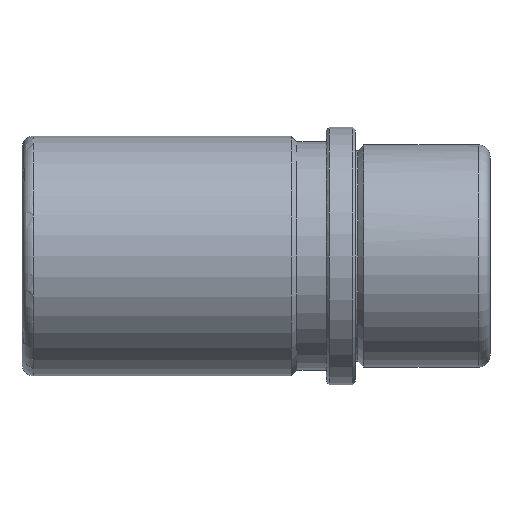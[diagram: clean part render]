
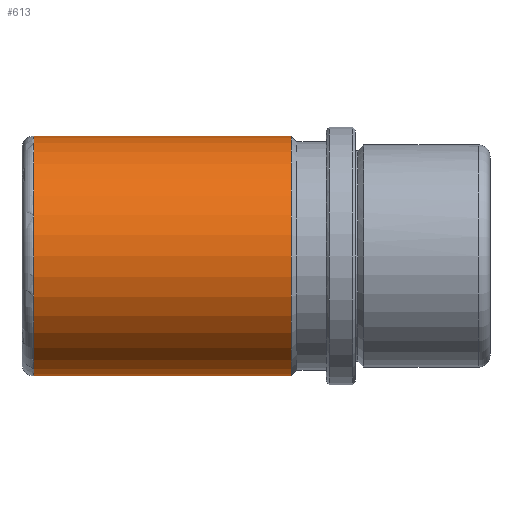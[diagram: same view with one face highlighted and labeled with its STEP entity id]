
A CAD part, front view. The second image highlights one B-rep face of the part: STEP entity #613.
In plain terms, the highlighted cylindrical face has radius 20.5 mm (diameter 41 mm), a partial arc.
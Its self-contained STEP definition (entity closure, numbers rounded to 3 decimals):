
#398=CARTESIAN_POINT('Line Origine',(23.,0.,20.5)) ;
#402=CARTESIAN_POINT('Vertex',(-11.,0.,20.5)) ;
#404=CARTESIAN_POINT('Vertex',(-55.,0.,20.5)) ;
#418=CARTESIAN_POINT('Vertex',(-11.,0.,-20.5)) ;
#421=CARTESIAN_POINT('Line Origine',(23.,0.,-20.5)) ;
#425=CARTESIAN_POINT('Vertex',(-55.,0.,-20.5)) ;
#576=CARTESIAN_POINT('Axis2P3D Location',(23.,0.,0.)) ;
#581=CARTESIAN_POINT('Axis2P3D Location',(-11.,0.,0.)) ;
#585=CARTESIAN_POINT('Vertex',(-11.,-20.5,0.)) ;
#588=CARTESIAN_POINT('Axis2P3D Location',(-11.,0.,0.)) ;
#593=CARTESIAN_POINT('Axis2P3D Location',(-55.,0.,0.)) ;
#597=CARTESIAN_POINT('Vertex',(-55.,-20.5,0.)) ;
#600=CARTESIAN_POINT('Axis2P3D Location',(-55.,0.,0.)) ;
#399=DIRECTION('Vector Direction',(-1.,0.,0.)) ;
#422=DIRECTION('Vector Direction',(-1.,0.,0.)) ;
#577=DIRECTION('Axis2P3D Direction',(-1.,-0.,-0.)) ;
#578=DIRECTION('Axis2P3D XDirection',(0.,0.,-1.)) ;
#582=DIRECTION('Axis2P3D Direction',(-1.,-0.,-0.)) ;
#589=DIRECTION('Axis2P3D Direction',(-1.,-0.,-0.)) ;
#594=DIRECTION('Axis2P3D Direction',(-1.,-0.,-0.)) ;
#601=DIRECTION('Axis2P3D Direction',(-1.,-0.,-0.)) ;
#579=AXIS2_PLACEMENT_3D('Cylinder Axis2P3D',#576,#577,#578) ;
#583=AXIS2_PLACEMENT_3D('Circle Axis2P3D',#581,#582,$) ;
#590=AXIS2_PLACEMENT_3D('Circle Axis2P3D',#588,#589,$) ;
#595=AXIS2_PLACEMENT_3D('Circle Axis2P3D',#593,#594,$) ;
#602=AXIS2_PLACEMENT_3D('Circle Axis2P3D',#600,#601,$) ;
#606=ORIENTED_EDGE('',*,*,#427,.T.) ;
#607=ORIENTED_EDGE('',*,*,#587,.F.) ;
#608=ORIENTED_EDGE('',*,*,#592,.F.) ;
#609=ORIENTED_EDGE('',*,*,#406,.T.) ;
#610=ORIENTED_EDGE('',*,*,#599,.T.) ;
#611=ORIENTED_EDGE('',*,*,#604,.T.) ;
#400=VECTOR('Line Direction',#399,1.) ;
#423=VECTOR('Line Direction',#422,1.) ;
#613=ADVANCED_FACE('CF 655 25 x 80',(#612),#580,.T.) ;
#584=CIRCLE('generated circle',#583,20.5) ;
#591=CIRCLE('generated circle',#590,20.5) ;
#596=CIRCLE('generated circle',#595,20.5) ;
#603=CIRCLE('generated circle',#602,20.5) ;
#580=CYLINDRICAL_SURFACE('generated cylinder',#579,20.5) ;
#406=EDGE_CURVE('',#403,#405,#401,.T.) ;
#427=EDGE_CURVE('',#426,#419,#424,.F.) ;
#587=EDGE_CURVE('',#586,#419,#584,.F.) ;
#592=EDGE_CURVE('',#403,#586,#591,.F.) ;
#599=EDGE_CURVE('',#405,#598,#596,.F.) ;
#604=EDGE_CURVE('',#598,#426,#603,.F.) ;
#605=EDGE_LOOP('',(#606,#607,#608,#609,#610,#611)) ;
#612=FACE_OUTER_BOUND('',#605,.T.) ;
#401=LINE('Line',#398,#400) ;
#424=LINE('Line',#421,#423) ;
#403=VERTEX_POINT('',#402) ;
#405=VERTEX_POINT('',#404) ;
#419=VERTEX_POINT('',#418) ;
#426=VERTEX_POINT('',#425) ;
#586=VERTEX_POINT('',#585) ;
#598=VERTEX_POINT('',#597) ;
